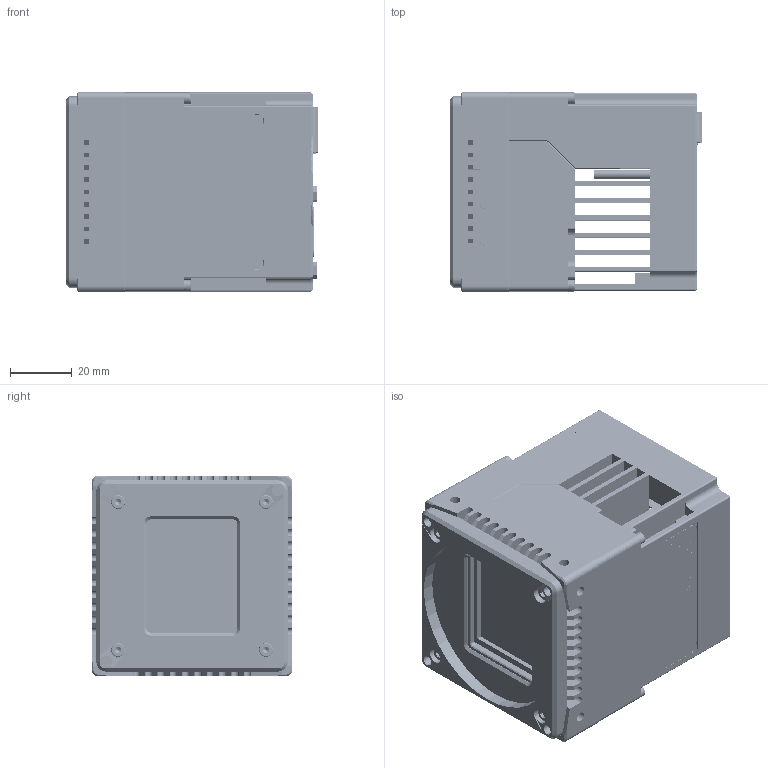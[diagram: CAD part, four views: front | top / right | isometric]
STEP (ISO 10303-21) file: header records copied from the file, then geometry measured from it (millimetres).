
FILE_DESCRIPTION (( 'STEP AP214' ), '1' );
FILE_NAME ('TS65MPXGV-19M&C-A01-V1.0.0-三维模型.STEP', '2024-09-09T08:13:09', ( 'Windows User' ), ( 'P R C' ), 'SwSTEP 2.0', 'SolidWorks 2017', '' );
FILE_SCHEMA (( 'AUTOMOTIVE_DESIGN' ));
Length unit declared in the file: millimetre
Products named in the file (1): TS65MPXGV-19M&C-A01-V1.0.0-三维模型
Bounding box: 81.67 x 65 x 65 mm (x, y, z)
Volume: 226579.5 mm3; surface area: 117093.5 mm2
Topology: 35 solids, 35 shells, 5389 faces, 13698 edges, 8972 vertices
Faces by surface type: plane 2963, cylinder 1868, bspline 373, cone 185
Entity records: 218741 total; most frequent: CARTESIAN_POINT 52955, ORIENTED_EDGE 27264, DIRECTION 25422, EDGE_CURVE 13632, VERTEX_POINT 8972, AXIS2_PLACEMENT_3D 8497, LINE 8428, VECTOR 8428
